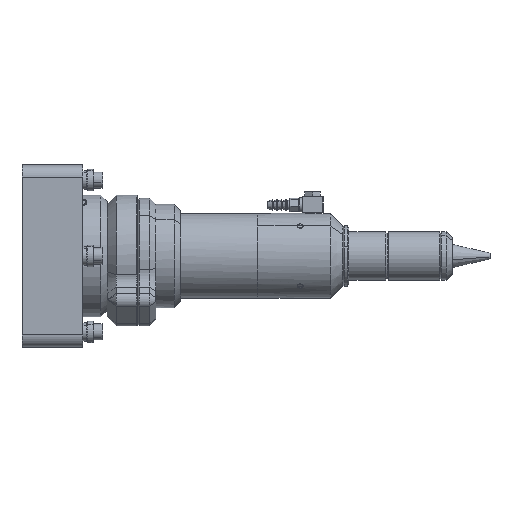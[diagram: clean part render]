
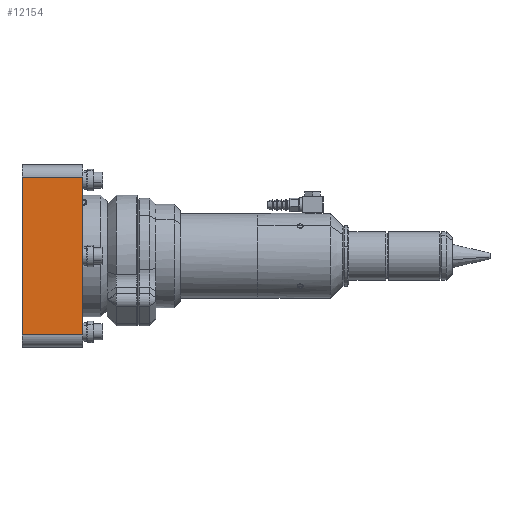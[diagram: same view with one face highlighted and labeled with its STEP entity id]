
A CAD part, left-side view. The second image highlights one B-rep face of the part: STEP entity #12154.
In plain terms, the highlighted planar face has unit normal (-1, 0, 0).
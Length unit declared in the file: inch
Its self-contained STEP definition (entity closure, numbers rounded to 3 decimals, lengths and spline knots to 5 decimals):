
#42 = CARTESIAN_POINT ( 'NONE',  ( -1.875, 1.25, 1.625 ) ) ;
#144 = DIRECTION ( 'NONE',  ( 0., 0., 1. ) ) ;
#1198 = DIRECTION ( 'NONE',  ( 0., 1., 0. ) ) ;
#1543 = CARTESIAN_POINT ( 'NONE',  ( -1.875, 1.25, -1.875 ) ) ;
#1632 = CARTESIAN_POINT ( 'NONE',  ( -1.875, 1.25, -1.625 ) ) ;
#1751 = PLANE ( 'NONE',  #20437 ) ;
#2146 = EDGE_CURVE ( 'Defeatured_0_15+Defeatured_0_19+Defeatured_0_23+Defeatured_0_24', #11913, #5352, #13705, .T. ) ;
#2668 = VECTOR ( 'NONE', #144, 39.37008 ) ;
#2822 = FACE_OUTER_BOUND ( 'NONE', #3861, .T. ) ;
#2989 = CARTESIAN_POINT ( 'NONE',  ( -1.875, 1.25, -1.875 ) ) ;
#3444 = DIRECTION ( 'NONE',  ( 1., 0., 0. ) ) ;
#3526 = CARTESIAN_POINT ( 'NONE',  ( -1.875, 0., 1.625 ) ) ;
#3861 = EDGE_LOOP ( 'NONE', ( #14166, #7147, #7827, #16697 ) ) ;
#4886 = VECTOR ( 'NONE', #10144, 39.37008 ) ;
#5352 = VERTEX_POINT ( 'NONE', #3526 ) ;
#7080 = LINE ( 'NONE', #2989, #2668 ) ;
#7108 = VECTOR ( 'NONE', #13459, 39.37008 ) ;
#7147 = ORIENTED_EDGE ( 'NONE', *, *, #17674, .T. ) ;
#7378 = LINE ( 'NONE', #1632, #7108 ) ;
#7827 = ORIENTED_EDGE ( 'NONE', *, *, #2146, .T. ) ;
#9842 = VECTOR ( 'NONE', #1198, 39.37008 ) ;
#9884 = EDGE_CURVE ( 'Defeatured_0_15+Defeatured_0_24+Defeatured_0_19+Defeatured_0_14', #5352, #13646, #12963, .T. ) ;
#10144 = DIRECTION ( 'NONE',  ( 0., 0., 1. ) ) ;
#10577 = CARTESIAN_POINT ( 'NONE',  ( -1.875, 1.25, 1.625 ) ) ;
#11272 = CARTESIAN_POINT ( 'NONE',  ( -1.875, 0., -1.875 ) ) ;
#11795 = CARTESIAN_POINT ( 'NONE',  ( -1.875, 1.25, -1.625 ) ) ;
#11913 = VERTEX_POINT ( 'NONE', #19263 ) ;
#12154 = ADVANCED_FACE ( 'Defeatured_0_15', ( #2822 ), #1751, .F. ) ;
#12963 = LINE ( 'NONE', #42, #9842 ) ;
#13459 = DIRECTION ( 'NONE',  ( 0., -1., 0. ) ) ;
#13646 = VERTEX_POINT ( 'NONE', #10577 ) ;
#13705 = LINE ( 'NONE', #11272, #4886 ) ;
#14166 = ORIENTED_EDGE ( 'NONE', *, *, #21181, .F. ) ;
#15073 = VERTEX_POINT ( 'NONE', #11795 ) ;
#16697 = ORIENTED_EDGE ( 'NONE', *, *, #9884, .T. ) ;
#17674 = EDGE_CURVE ( 'Defeatured_0_15+Defeatured_0_23+Defeatured_0_14+Defeatured_0_19', #15073, #11913, #7378, .T. ) ;
#19263 = CARTESIAN_POINT ( 'NONE',  ( -1.875, 0., -1.625 ) ) ;
#20437 = AXIS2_PLACEMENT_3D ( 'NONE', #1543, #3444, #21336 ) ;
#21181 = EDGE_CURVE ( 'Defeatured_0_14+Defeatured_0_15+Defeatured_0_23+Defeatured_0_24', #15073, #13646, #7080, .T. ) ;
#21336 = DIRECTION ( 'NONE',  ( 0., 0., -1. ) ) ;
